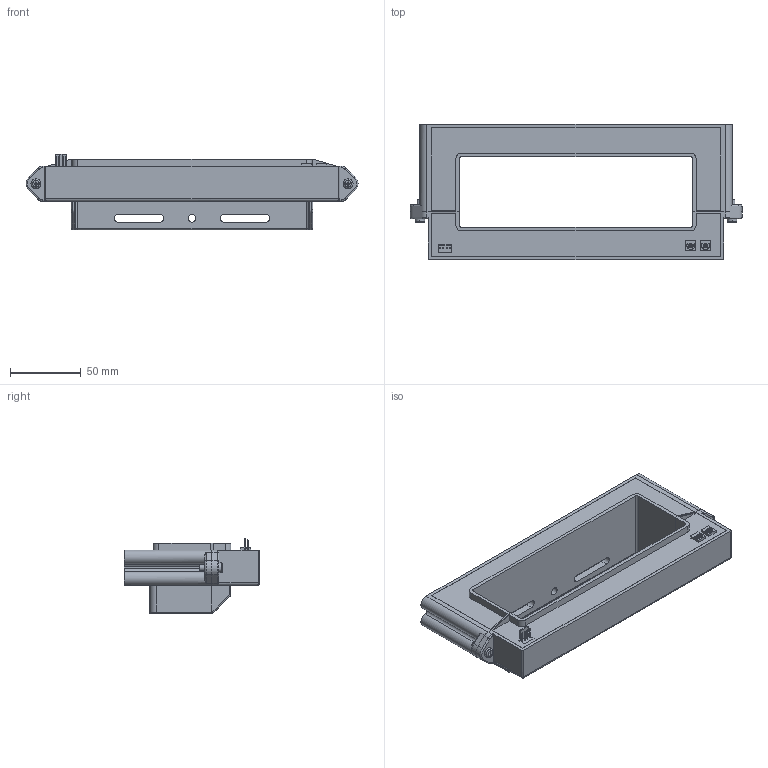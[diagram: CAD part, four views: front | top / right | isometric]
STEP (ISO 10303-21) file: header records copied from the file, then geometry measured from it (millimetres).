
FILE_DESCRIPTION(('Creo Elements/Direct Modeling STEP Export'),'2;1');
FILE_NAME('70.00.69.001.0_20180621.stp','2018-06-21T16:55:41',(''),(''),'PTC Creo Elements/Direct Modeling STEP processor for AP214 (Solid Model)','PTC Creo Elements/Direct Modeling 19.0E 27-Jun-2016 (C) Parametric Technology GmbH','');
FILE_SCHEMA(('AUTOMOTIVE_DESIGN { 1 0 10303 214 1 1 1 1 }'));
Length unit declared in the file: millimetre
Products named in the file (7): M4x6; NUT_M4; NUT; Housing-A; Housing-B; 1.Housing; HOP_2000-SB_SP1_BBox
Assembly tree (8 placements, depth 4):
  HOP_2000-SB_SP1_BBox
    1.Housing
      Housing-B
      Housing-A
      NUT
        NUT_M4  x2
        M4x6  x2
Bounding box: 235 x 96 x 53.3 mm (x, y, z)
Volume: 332589.8 mm3; surface area: 76203.2 mm2
Topology: 6 solids, 6 shells, 822 faces, 2215 edges, 1456 vertices
Faces by surface type: cylinder 301, plane 277, bspline 208, torus 20, cone 12, sphere 4
Entity records: 26167 total; most frequent: CARTESIAN_POINT 8199, ORIENTED_EDGE 3242, DIRECTION 2719, EDGE_CURVE 1621, VERTEX_POINT 1063, VECTOR 927, LINE 927, AXIS2_PLACEMENT_3D 896
